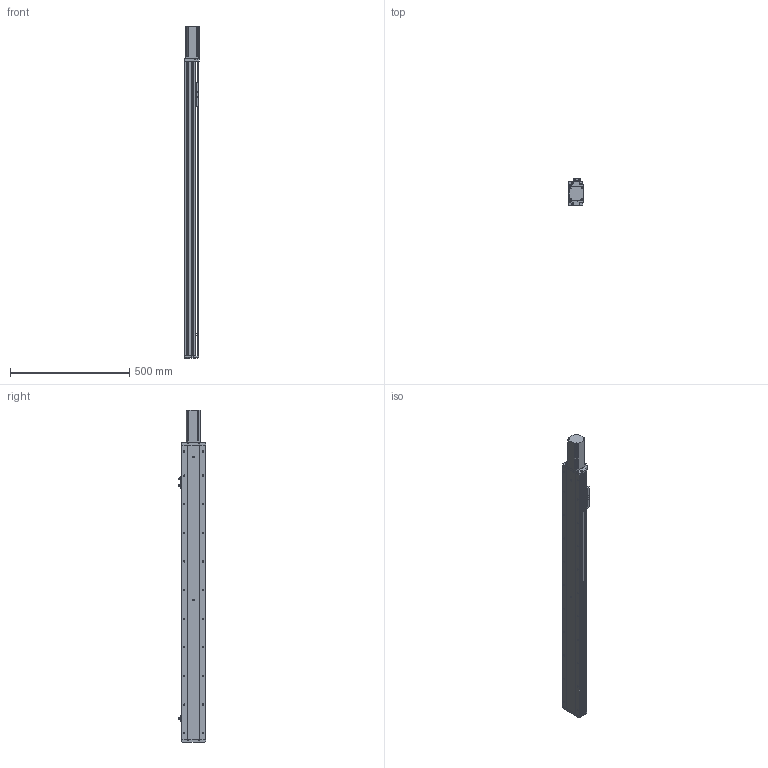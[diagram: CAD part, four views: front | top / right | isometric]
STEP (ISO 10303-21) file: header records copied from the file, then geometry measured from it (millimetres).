
FILE_DESCRIPTION (( 'STEP AP214' ), '1' );
FILE_NAME ('KSD100S-S1000-MN-CM.STEP', '2019-08-30T07:48:04', ( '微软用户' ), ( '微软中国' ), 'SwSTEP 2.0', 'SolidWorks 2014', '' );
FILE_SCHEMA (( 'AUTOMOTIVE_DESIGN' ));
Length unit declared in the file: millimetre
Products named in the file (9): 台达ECMA－C20604AS伺服电机; 覜茼え100遵圉猾敕; U倰嫖萇EEㄜSX672; 100宽防尘板丝杆1000行程不带电机座; 100宽马达安装板不带电机座; 100宽滚珠螺姆安装板半封闭; 100遵傷啣; 100宽底板半封闭1000行程丝杆不带电机座; KSD100S-S1000-MN-CM
Assembly tree (10 placements, depth 2):
  KSD100S-S1000-MN-CM
    100宽底板半封闭1000行程丝杆不带电机座
    100遵傷啣
    100宽滚珠螺姆安装板半封闭
    100宽马达安装板不带电机座
    100宽防尘板丝杆1000行程不带电机座
    U倰嫖萇EEㄜSX672  x3
    覜茼え100遵圉猾敕
    台达ECMA－C20604AS伺服电机
Bounding box: 62 x 113.7 x 1392 mm (x, y, z)
Volume: 2827272.2 mm3; surface area: 904446.3 mm2
Topology: 11 solids, 11 shells, 1212 faces, 3450 edges, 2167 vertices
Faces by surface type: cylinder 593, plane 472, cone 147
Entity records: 42924 total; most frequent: CARTESIAN_POINT 9136, DIRECTION 5637, ORIENTED_EDGE 5512, EDGE_CURVE 2756, AXIS2_PLACEMENT_3D 2048, VERTEX_POINT 1791, LINE 1541, VECTOR 1541
